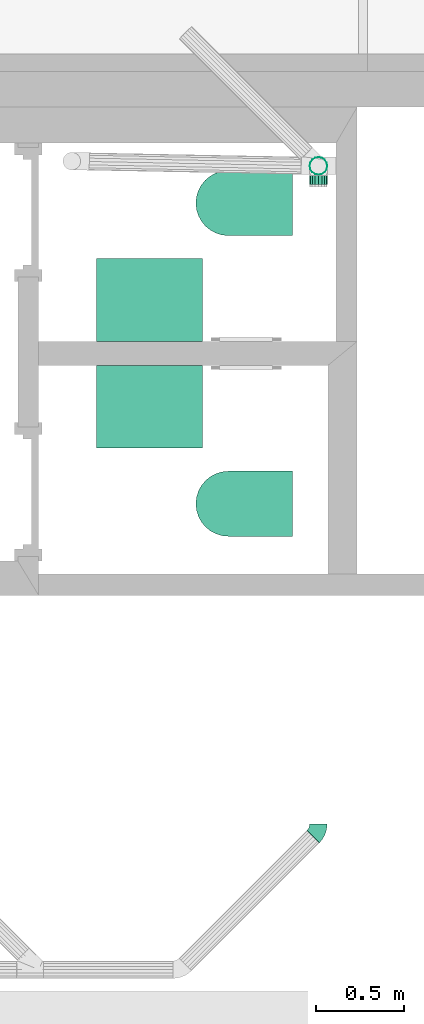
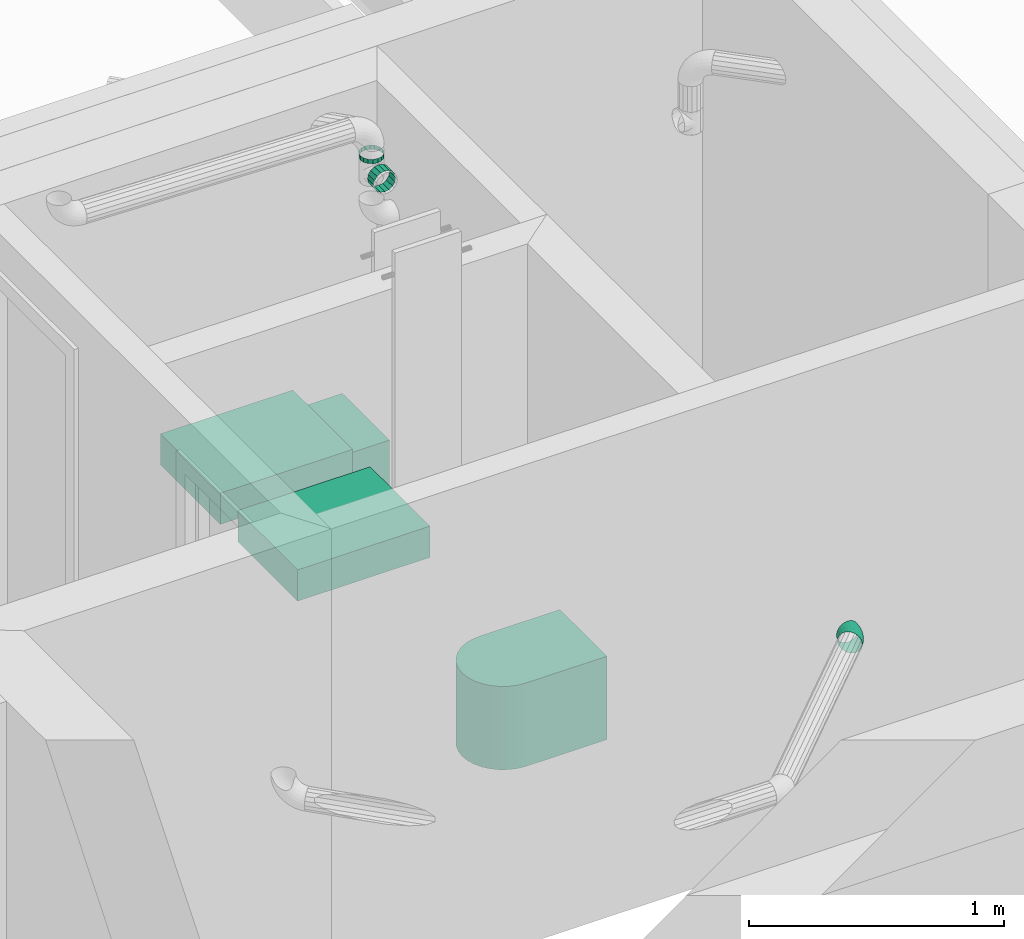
# One storey, part 16 of 22: 4 flow terminals, 2 flow segments, 1 flow fitting.
"""IFC2X3 building model written with IfcOpenShell, lengths in metres."""

from ifc_helpers import new_model, entity, si_unit, converted_unit, derived_unit, money_unit, direction, frame, origin_with_axes, place, context, subcontext, project, spatial, open_shell, faceted_brep, surface_model, material, type_object, element, save


model = new_model("IFC2X3")

# Units and contexts
model_context = context("Model", 3, precision=1e-05, world=origin_with_axes(), true_north=direction((0.0, 1.0)))
body_context = subcontext(model_context, "Body", "Model", "MODEL_VIEW", scale=1.0)
ifc_project = project(units=[si_unit("LENGTHUNIT", "METRE"), si_unit("AREAUNIT", "SQUARE_METRE"), si_unit("VOLUMEUNIT", "CUBIC_METRE"), si_unit("ABSORBEDDOSEUNIT", "GRAY"), si_unit("AMOUNTOFSUBSTANCEUNIT", "MOLE"), si_unit("DOSEEQUIVALENTUNIT", "SIEVERT"), si_unit("ELECTRICCAPACITANCEUNIT", "FARAD"), si_unit("ELECTRICCHARGEUNIT", "COULOMB"), si_unit("ELECTRICCONDUCTANCEUNIT", "SIEMENS"), si_unit("ELECTRICCURRENTUNIT", "AMPERE"), si_unit("ELECTRICRESISTANCEUNIT", "OHM"), si_unit("ELECTRICVOLTAGEUNIT", "VOLT"), si_unit("ENERGYUNIT", "JOULE"), si_unit("FORCEUNIT", "NEWTON"), si_unit("FREQUENCYUNIT", "HERTZ"), si_unit("ILLUMINANCEUNIT", "LUX"), si_unit("INDUCTANCEUNIT", "HENRY"), si_unit("LUMINOUSFLUXUNIT", "LUMEN"), si_unit("LUMINOUSINTENSITYUNIT", "CANDELA"), si_unit("MAGNETICFLUXDENSITYUNIT", "TESLA"), si_unit("MAGNETICFLUXUNIT", "WEBER"), si_unit("MASSUNIT", "GRAM"), converted_unit("PLANEANGLEUNIT", "degree", entity("IfcReal", 0.0174532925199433), si_unit("PLANEANGLEUNIT", "RADIAN"), dimensions=[0, 0, 0, 0, 0, 0, 0]), si_unit("POWERUNIT", "WATT"), si_unit("PRESSUREUNIT", "PASCAL"), si_unit("RADIOACTIVITYUNIT", "BECQUEREL"), si_unit("SOLIDANGLEUNIT", "STERADIAN"), si_unit("THERMODYNAMICTEMPERATUREUNIT", "KELVIN"), si_unit("TIMEUNIT", "SECOND"), derived_unit("ACCELERATIONUNIT", [(si_unit("LENGTHUNIT", "METRE"), 1), (si_unit("TIMEUNIT", "SECOND"), -2)]), derived_unit("ANGULARVELOCITYUNIT", [(converted_unit("PLANEANGLEUNIT", "degree", entity("IfcReal", 0.0174532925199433), si_unit("PLANEANGLEUNIT", "RADIAN"), dimensions=[0, 0, 0, 0, 0, 0, 0]), 1), (si_unit("TIMEUNIT", "SECOND"), -1)]), derived_unit("CURVATUREUNIT", [(converted_unit("PLANEANGLEUNIT", "degree", entity("IfcReal", 0.0174532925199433), si_unit("PLANEANGLEUNIT", "RADIAN"), dimensions=[0, 0, 0, 0, 0, 0, 0]), 1), (si_unit("LENGTHUNIT", "METRE"), -1)]), derived_unit("DYNAMICVISCOSITYUNIT", [(si_unit("PRESSUREUNIT", "PASCAL"), 1), (si_unit("TIMEUNIT", "SECOND"), 1)]), derived_unit("HEATFLUXDENSITYUNIT", [(si_unit("POWERUNIT", "WATT"), 1), (si_unit("LENGTHUNIT", "METRE"), -2)]), derived_unit("HEATINGVALUEUNIT", [(si_unit("ENERGYUNIT", "JOULE"), 1), (si_unit("MASSUNIT", "GRAM"), -1)]), derived_unit("INTEGERCOUNTRATEUNIT", [(si_unit("TIMEUNIT", "SECOND"), -1)]), derived_unit("IONCONCENTRATIONUNIT", [(si_unit("MASSUNIT", "GRAM"), 1), (si_unit("VOLUMEUNIT", "CUBIC_METRE"), -1)]), derived_unit("ISOTHERMALMOISTURECAPACITYUNIT", [(si_unit("VOLUMEUNIT", "CUBIC_METRE"), 1), (si_unit("MASSUNIT", "GRAM"), -1)]), derived_unit("KINEMATICVISCOSITYUNIT", [(si_unit("AREAUNIT", "SQUARE_METRE"), 1), (si_unit("TIMEUNIT", "SECOND"), -1)]), derived_unit("LINEARFORCEUNIT", [(si_unit("FORCEUNIT", "NEWTON"), 1), (si_unit("LENGTHUNIT", "METRE"), -1)]), derived_unit("LINEARMOMENTUNIT", [(si_unit("FORCEUNIT", "NEWTON"), 1), (si_unit("LENGTHUNIT", "METRE"), -1)]), derived_unit("LINEARSTIFFNESSUNIT", [(si_unit("FORCEUNIT", "NEWTON"), 1), (si_unit("LENGTHUNIT", "METRE"), -1)]), derived_unit("LINEARVELOCITYUNIT", [(si_unit("LENGTHUNIT", "METRE"), 1), (si_unit("TIMEUNIT", "SECOND"), -1)]), derived_unit("LUMINOUSINTENSITYDISTRIBUTIONUNIT", [(si_unit("LUMINOUSINTENSITYUNIT", "CANDELA"), 1), (si_unit("LUMINOUSFLUXUNIT", "LUMEN"), -1)]), derived_unit("MASSDENSITYUNIT", [(si_unit("MASSUNIT", "GRAM"), 1), (si_unit("VOLUMEUNIT", "CUBIC_METRE"), -1)]), derived_unit("MASSFLOWRATEUNIT", [(si_unit("MASSUNIT", "GRAM"), 1), (si_unit("TIMEUNIT", "SECOND"), -1)]), derived_unit("MASSPERLENGTHUNIT", [(si_unit("MASSUNIT", "GRAM"), 1), (si_unit("LENGTHUNIT", "METRE"), -1)]), derived_unit("MODULUSOFELASTICITYUNIT", [(si_unit("FORCEUNIT", "NEWTON"), 1), (si_unit("AREAUNIT", "SQUARE_METRE"), -1)]), derived_unit("MODULUSOFLINEARSUBGRADEREACTIONUNIT", [(si_unit("FORCEUNIT", "NEWTON"), 1), (si_unit("LENGTHUNIT", "METRE"), -2)]), derived_unit("MODULUSOFROTATIONALSUBGRADEREACTIONUNIT", [(si_unit("FORCEUNIT", "NEWTON"), 1), (si_unit("LENGTHUNIT", "METRE"), 1)]), derived_unit("MODULUSOFSUBGRADEREACTIONUNIT", [(si_unit("FORCEUNIT", "NEWTON"), 1), (si_unit("VOLUMEUNIT", "CUBIC_METRE"), -1)]), derived_unit("MOISTUREDIFFUSIVITYUNIT", [(si_unit("VOLUMEUNIT", "CUBIC_METRE"), 1), (si_unit("TIMEUNIT", "SECOND"), -1)]), derived_unit("MOLECULARWEIGHTUNIT", [(si_unit("MASSUNIT", "GRAM"), 1), (si_unit("AMOUNTOFSUBSTANCEUNIT", "MOLE"), -1)]), derived_unit("PLANARFORCEUNIT", [(si_unit("FORCEUNIT", "NEWTON"), 1), (si_unit("LENGTHUNIT", "METRE"), -2)]), derived_unit("ROTATIONALFREQUENCYUNIT", [(si_unit("TIMEUNIT", "SECOND"), -1)]), derived_unit("ROTATIONALMASSUNIT", [(si_unit("MASSUNIT", "GRAM"), 1), (si_unit("LENGTHUNIT", "METRE"), 2)]), derived_unit("ROTATIONALSTIFFNESSUNIT", [(si_unit("FORCEUNIT", "NEWTON"), 1), (si_unit("LENGTHUNIT", "METRE"), 1), (converted_unit("PLANEANGLEUNIT", "degree", entity("IfcReal", 0.0174532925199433), si_unit("PLANEANGLEUNIT", "RADIAN"), dimensions=[0, 0, 0, 0, 0, 0, 0]), -1)]), derived_unit("SECTIONAREAINTEGRALUNIT", [(si_unit("LENGTHUNIT", "METRE"), 5)]), derived_unit("SECTIONMODULUSUNIT", [(si_unit("LENGTHUNIT", "METRE"), 3)]), derived_unit("SHEARMODULUSUNIT", [(si_unit("FORCEUNIT", "NEWTON"), 1), (si_unit("AREAUNIT", "SQUARE_METRE"), -1)]), derived_unit("SOUNDPOWERUNIT", [(si_unit("ENERGYUNIT", "JOULE"), 1), (si_unit("TIMEUNIT", "SECOND"), -1)]), derived_unit("SPECIFICHEATCAPACITYUNIT", [(si_unit("FORCEUNIT", "NEWTON"), 1), (si_unit("MASSUNIT", "GRAM"), -1), (si_unit("THERMODYNAMICTEMPERATUREUNIT", "KELVIN"), -1)]), derived_unit("TEMPERATUREGRADIENTUNIT", [(si_unit("THERMODYNAMICTEMPERATUREUNIT", "KELVIN"), 1), (si_unit("LENGTHUNIT", "METRE"), -1)]), derived_unit("THERMALADMITTANCEUNIT", [(si_unit("POWERUNIT", "WATT"), 1), (si_unit("AREAUNIT", "SQUARE_METRE"), -1), (si_unit("THERMODYNAMICTEMPERATUREUNIT", "KELVIN"), -1)]), derived_unit("THERMALCONDUCTANCEUNIT", [(si_unit("POWERUNIT", "WATT"), 1), (si_unit("LENGTHUNIT", "METRE"), -1), (si_unit("THERMODYNAMICTEMPERATUREUNIT", "KELVIN"), -1)]), derived_unit("THERMALEXPANSIONCOEFFICIENTUNIT", [(si_unit("THERMODYNAMICTEMPERATUREUNIT", "KELVIN"), -1)]), derived_unit("THERMALRESISTANCEUNIT", [(si_unit("AREAUNIT", "SQUARE_METRE"), 1), (si_unit("POWERUNIT", "WATT"), -1)]), derived_unit("THERMALTRANSMITTANCEUNIT", [(si_unit("POWERUNIT", "WATT"), 1), (si_unit("AREAUNIT", "SQUARE_METRE"), -1), (si_unit("THERMODYNAMICTEMPERATUREUNIT", "KELVIN"), -1)]), derived_unit("TORQUEUNIT", [(si_unit("FORCEUNIT", "NEWTON"), 1), (si_unit("LENGTHUNIT", "METRE"), 1)]), derived_unit("VAPORPERMEABILITYUNIT", [(si_unit("MASSUNIT", "GRAM"), 1), (si_unit("TIMEUNIT", "SECOND"), -1)]), derived_unit("VOLUMETRICFLOWRATEUNIT", [(si_unit("VOLUMEUNIT", "CUBIC_METRE"), 1), (si_unit("TIMEUNIT", "SECOND"), -1)]), derived_unit("WARPINGCONSTANTUNIT", [(si_unit("LENGTHUNIT", "METRE"), 6)]), derived_unit("WARPINGMOMENTUNIT", [(si_unit("FORCEUNIT", "NEWTON"), 1), (si_unit("LENGTHUNIT", "METRE"), 2)]), money_unit("GBP")], contexts=[model_context])

# Site, building, storey, space
site_placement = place(None, origin_with_axes())
site = spatial("IfcSite", under=ifc_project, at=site_placement, Name="Site", CompositionType="ELEMENT")
building_placement = place(site_placement, origin_with_axes())
building = spatial("IfcBuilding", under=site, at=building_placement, Name="Building01", CompositionType="ELEMENT")
storey_placement = place(building_placement, frame((0.0, 0.0, 2.6), z_axis=(0.0, 0.0, 1.0), x_axis=(1.0, 0.0, 0.0)))
storey = spatial("IfcBuildingStorey", under=building, at=storey_placement, Name="MF", CompositionType="ELEMENT", Elevation=2.6)
space_1_placement = place(storey_placement, frame((15.816265, 6.196984, 0.0), z_axis=(0.0, 0.0, 1.0), x_axis=(1.0, 0.0, 0.0)))
space_1 = spatial("IfcSpace", under=storey, at=space_1_placement, Name="WC", CompositionType="ELEMENT", InteriorOrExteriorSpace="NOTDEFINED")

# Flow segments
ifc_material = material(Name="M_BSUK_ColdWater")
pipe_segment_type = type_object("IfcPipeSegmentType", Name="M-BmpStraightpipe-DefaultPipe", PredefinedType="RIGIDSEGMENT")
placement = place(building_placement, origin_with_axes())
flow_segment_1_placement = place(placement, frame((17.406946, 8.516912, 4.670054), z_axis=(1.0, 0.0, 0.0), x_axis=(0.0, 0.0, -1.0)))
element("IfcFlowSegment", 1, at=flow_segment_1_placement, inside=space_1, type_object=pipe_segment_type, material=ifc_material, Name="M-BmpStraightpipe-DefaultPipe", ObjectType="M-BmpStraightpipe-DefaultPipe", context=body_context, shape_type="Brep", body=[
    faceted_brep([(0.020788, 0.0, -0.05), (0.0, 0.0, -0.05), (0.0, 0.019134, -0.046194), (0.020788, 0.019134, -0.046194), (0.0, 0.035355, -0.035355), (0.020788, 0.035355, -0.035355), (0.0, 0.046194, -0.019134), (0.020788, 0.046194, -0.019134), (0.0, 0.05, 0.0), (0.020788, 0.05, 0.0), (0.0, 0.046194, 0.019134), (0.020788, 0.046194, 0.019134), (0.0, 0.035355, 0.035355), (0.020788, 0.035355, 0.035355), (0.0, 0.019134, 0.046194), (0.020788, 0.019134, 0.046194), (0.0, 0.0, 0.05), (0.020788, 0.0, 0.05), (0.0, -0.019134, 0.046194), (0.020788, -0.019134, 0.046194), (0.0, -0.035355, 0.035355), (0.020788, -0.035355, 0.035355), (0.0, -0.046194, 0.019134), (0.020788, -0.046194, 0.019134), (0.0, -0.05, 0.0), (0.020788, -0.05, 0.0), (0.0, -0.046194, -0.019134), (0.020788, -0.046194, -0.019134), (0.0, -0.035355, -0.035355), (0.020788, -0.035355, -0.035355), (0.0, -0.019134, -0.046194), (0.020788, -0.019134, -0.046194)], [[[0, 1, 2, 3]], [[3, 2, 4, 5]], [[5, 4, 6, 7]], [[7, 6, 8, 9]], [[9, 8, 10, 11]], [[11, 10, 12, 13]], [[13, 12, 14, 15]], [[15, 14, 16, 17]], [[17, 16, 18, 19]], [[19, 18, 20, 21]], [[21, 20, 22, 23]], [[23, 22, 24, 25]], [[25, 24, 26, 27]], [[27, 26, 28, 29]], [[29, 28, 30, 31]], [[31, 30, 1, 0]]]),
])
flow_segment_2_placement = place(placement, frame((17.406946, 8.461286, 4.594332), z_axis=(0.0, 0.0, 1.0), x_axis=(0.0, -1.0, 0.0)))
element("IfcFlowSegment", 2, at=flow_segment_2_placement, inside=space_1, type_object=pipe_segment_type, material=ifc_material, Name="M-BmpStraightpipe-DefaultPipe", ObjectType="M-BmpStraightpipe-DefaultPipe", context=body_context, shape_type="Brep", body=[
    faceted_brep([(0.05, 0.0, -0.05), (0.0, 0.0, -0.05), (0.0, 0.019134, -0.046194), (0.05, 0.019134, -0.046194), (0.0, 0.035355, -0.035355), (0.05, 0.035355, -0.035355), (0.0, 0.046194, -0.019134), (0.05, 0.046194, -0.019134), (0.0, 0.05, 0.0), (0.05, 0.05, 0.0), (0.0, 0.046194, 0.019134), (0.05, 0.046194, 0.019134), (0.0, 0.035355, 0.035355), (0.05, 0.035355, 0.035355), (0.0, 0.019134, 0.046194), (0.05, 0.019134, 0.046194), (0.0, 0.0, 0.05), (0.05, 0.0, 0.05), (0.0, -0.019134, 0.046194), (0.05, -0.019134, 0.046194), (0.0, -0.035355, 0.035355), (0.05, -0.035355, 0.035355), (0.0, -0.046194, 0.019134), (0.05, -0.046194, 0.019134), (0.0, -0.05, 0.0), (0.05, -0.05, 0.0), (0.0, -0.046194, -0.019134), (0.05, -0.046194, -0.019134), (0.0, -0.035355, -0.035355), (0.05, -0.035355, -0.035355), (0.0, -0.019134, -0.046194), (0.05, -0.019134, -0.046194)], [[[0, 1, 2, 3]], [[3, 2, 4, 5]], [[5, 4, 6, 7]], [[7, 6, 8, 9]], [[9, 8, 10, 11]], [[11, 10, 12, 13]], [[13, 12, 14, 15]], [[15, 14, 16, 17]], [[17, 16, 18, 19]], [[19, 18, 20, 21]], [[21, 20, 22, 23]], [[23, 22, 24, 25]], [[25, 24, 26, 27]], [[27, 26, 28, 29]], [[29, 28, 30, 31]], [[31, 30, 1, 0]]]),
])

# Space
space_2_placement = place(storey_placement, frame((14.421434, 6.076984, 0.0), z_axis=(0.0, 0.0, 1.0), x_axis=(0.0, -1.0, 0.0)))
space_2 = spatial("IfcSpace", under=storey, at=space_2_placement, Name="storage", CompositionType="ELEMENT", InteriorOrExteriorSpace="NOTDEFINED")

# Flow fitting
pipe_fitting_type = type_object("IfcPipeFittingType", Name="M-BmpElbow-DefaultElbow", PredefinedType="BEND")
flow_fitting_placement = place(placement, frame((17.376697, 4.704855, 4.641439), z_axis=(0.70714306, -0.70705155, 0.00517679), x_axis=(0.70705154, 0.70705154, -0.01249902)))
element("IfcFlowFitting", 3, at=flow_fitting_placement, inside=space_2, type_object=pipe_fitting_type, material=ifc_material, Name="M-BmpElbow-DefaultElbow", ObjectType="M-BmpElbow-DefaultElbow", context=body_context, shape_type="SurfaceModel", body=[
    surface_model("IfcShellBasedSurfaceModel", [(0.008111, -0.01349, -0.048784), (0.0, -0.01349, -0.048146), (0.0, 0.0, -0.05), (0.007821, 0.0, -0.050615), (0.016023, -0.01349, -0.050683), (0.01545, 0.0, -0.052447), (0.023539, -0.01349, -0.053797), (0.022698, 0.0, -0.055449), (0.030477, -0.01349, -0.058048), (0.029387, 0.0, -0.059548), (0.036664, -0.01349, -0.063331), (0.035353, 0.0, -0.064642), (0.00896, -0.025979, -0.043426), (0.0, -0.025979, -0.042721), (0.017699, -0.025979, -0.045524), (0.026002, -0.025979, -0.048963), (0.033665, -0.025979, -0.053659), (0.0405, -0.025979, -0.059495), (0.010304, -0.036542, -0.034939), (0.0, -0.036542, -0.034128), (0.020354, -0.036542, -0.037351), (0.029903, -0.036542, -0.041306), (0.038716, -0.036542, -0.046706), (0.046576, -0.036542, -0.053418), (0.012044, -0.044394, -0.023951), (0.0, -0.044394, -0.023003), (0.023791, -0.044394, -0.026771), (0.034953, -0.044394, -0.031394), (0.045254, -0.044394, -0.037706), (0.054441, -0.044394, -0.045552), (0.014051, -0.048954, -0.011279), (0.0, -0.048954, -0.010173), (0.027756, -0.048954, -0.014569), (0.040778, -0.048954, -0.019962), (0.052795, -0.048954, -0.027326), (0.063513, -0.048954, -0.036478), (0.016176, -0.049883, 0.002139), (0.0, -0.049883, 0.003412), (0.031954, -0.049883, -0.001648), (0.046945, -0.049883, -0.007857), (0.06078, -0.049883, -0.016335), (0.073119, -0.049883, -0.026872), (0.018261, -0.047113, 0.015307), (0.0, -0.047113, 0.016744), (0.036073, -0.047113, 0.011031), (0.052997, -0.047113, 0.004022), (0.068616, -0.047113, -0.005549), (0.082545, -0.047113, -0.017444), (0.020152, -0.040848, 0.027248), (0.0, -0.040848, 0.028834), (0.039809, -0.040848, 0.022529), (0.058485, -0.040848, 0.014794), (0.075721, -0.040848, 0.004233), (0.091094, -0.040848, -0.008895), (0.021709, -0.031554, 0.037077), (0.0, -0.031554, 0.038786), (0.042884, -0.031554, 0.031994), (0.063003, -0.031554, 0.023661), (0.08157, -0.031554, 0.012284), (0.09813, -0.031554, -0.001857), (0.022816, -0.01992, 0.044065), (0.0, -0.01992, 0.045861), (0.04507, -0.01992, 0.038723), (0.066214, -0.01992, 0.029965), (0.085729, -0.01992, 0.018008), (0.103132, -0.01992, 0.003146), (0.02339, -0.006808, 0.047694), (0.0, -0.006808, 0.049534), (0.046205, -0.006808, 0.042217), (0.067882, -0.006808, 0.033239), (0.087888, -0.006808, 0.02098), (0.10573, -0.006808, 0.005744), (0.02339, 0.006808, 0.047694), (0.0, 0.006808, 0.049534), (0.046205, 0.006808, 0.042217), (0.067882, 0.006808, 0.033239), (0.087888, 0.006808, 0.02098), (0.10573, 0.006808, 0.005744), (0.022816, 0.01992, 0.044065), (0.0, 0.01992, 0.045861), (0.04507, 0.01992, 0.038723), (0.066214, 0.01992, 0.029965), (0.085729, 0.01992, 0.018008), (0.103132, 0.01992, 0.003146), (0.021709, 0.031554, 0.037077), (0.0, 0.031554, 0.038786), (0.042884, 0.031554, 0.031994), (0.063003, 0.031554, 0.023661), (0.08157, 0.031554, 0.012284), (0.09813, 0.031554, -0.001857), (0.020152, 0.040848, 0.027248), (0.0, 0.040848, 0.028834), (0.039809, 0.040848, 0.022529), (0.058485, 0.040848, 0.014794), (0.075721, 0.040848, 0.004233), (0.091094, 0.040848, -0.008895), (0.018261, 0.047113, 0.015307), (0.0, 0.047113, 0.016744), (0.036073, 0.047113, 0.011031), (0.052997, 0.047113, 0.004022), (0.068616, 0.047113, -0.005549), (0.082545, 0.047113, -0.017444), (0.016176, 0.049883, 0.002139), (0.0, 0.049883, 0.003412), (0.031954, 0.049883, -0.001648), (0.046945, 0.049883, -0.007857), (0.06078, 0.049883, -0.016335), (0.073119, 0.049883, -0.026872), (0.014051, 0.048954, -0.011279), (0.0, 0.048954, -0.010173), (0.027756, 0.048954, -0.014569), (0.040778, 0.048954, -0.019962), (0.052795, 0.048954, -0.027326), (0.063513, 0.048954, -0.036478), (0.012044, 0.044394, -0.023951), (0.0, 0.044394, -0.023003), (0.023791, 0.044394, -0.026771), (0.034953, 0.044394, -0.031394), (0.045254, 0.044394, -0.037706), (0.054441, 0.044394, -0.045552), (0.010304, 0.036542, -0.034939), (0.0, 0.036542, -0.034128), (0.020354, 0.036542, -0.037351), (0.029903, 0.036542, -0.041306), (0.038716, 0.036542, -0.046706), (0.046576, 0.036542, -0.053418), (0.00896, 0.025979, -0.043426), (0.0, 0.025979, -0.042721), (0.017699, 0.025979, -0.045524), (0.026002, 0.025979, -0.048963), (0.033665, 0.025979, -0.053659), (0.0405, 0.025979, -0.059495), (0.008111, 0.01349, -0.048784), (0.0, 0.01349, -0.048146), (0.016023, 0.01349, -0.050683), (0.023539, 0.01349, -0.053797), (0.030477, 0.01349, -0.058048), (0.036664, 0.01349, -0.063331)], [open_shell([[[0, 1, 2, 3]], [[4, 0, 3, 5]], [[6, 4, 5, 7]], [[8, 6, 7, 9]], [[10, 8, 9, 11]], [[12, 13, 1, 0]], [[14, 12, 0, 4]], [[15, 14, 4, 6]], [[16, 15, 6, 8]], [[17, 16, 8, 10]], [[18, 19, 13, 12]], [[20, 18, 12, 14]], [[21, 20, 14, 15]], [[22, 21, 15, 16]], [[23, 22, 16, 17]], [[24, 25, 19, 18]], [[26, 24, 18, 20]], [[27, 26, 20, 21]], [[28, 27, 21, 22]], [[29, 28, 22, 23]], [[30, 31, 25, 24]], [[32, 30, 24, 26]], [[33, 32, 26, 27]], [[34, 33, 27, 28]], [[35, 34, 28, 29]], [[36, 37, 31, 30]], [[38, 36, 30, 32]], [[39, 38, 32, 33]], [[40, 39, 33, 34]], [[41, 40, 34, 35]], [[42, 43, 37, 36]], [[44, 42, 36, 38]], [[45, 44, 38, 39]], [[46, 45, 39, 40]], [[47, 46, 40, 41]], [[48, 49, 43, 42]], [[50, 48, 42, 44]], [[51, 50, 44, 45]], [[52, 51, 45, 46]], [[53, 52, 46, 47]], [[54, 55, 49, 48]], [[56, 54, 48, 50]], [[57, 56, 50, 51]], [[58, 57, 51, 52]], [[59, 58, 52, 53]], [[60, 61, 55, 54]], [[62, 60, 54, 56]], [[63, 62, 56, 57]], [[64, 63, 57, 58]], [[65, 64, 58, 59]], [[66, 67, 61, 60]], [[68, 66, 60, 62]], [[69, 68, 62, 63]], [[70, 69, 63, 64]], [[71, 70, 64, 65]], [[72, 73, 67, 66]], [[74, 72, 66, 68]], [[75, 74, 68, 69]], [[76, 75, 69, 70]], [[77, 76, 70, 71]], [[78, 79, 73, 72]], [[80, 78, 72, 74]], [[81, 80, 74, 75]], [[82, 81, 75, 76]], [[83, 82, 76, 77]], [[84, 85, 79, 78]], [[86, 84, 78, 80]], [[87, 86, 80, 81]], [[88, 87, 81, 82]], [[89, 88, 82, 83]], [[90, 91, 85, 84]], [[92, 90, 84, 86]], [[93, 92, 86, 87]], [[94, 93, 87, 88]], [[95, 94, 88, 89]], [[96, 97, 91, 90]], [[98, 96, 90, 92]], [[99, 98, 92, 93]], [[100, 99, 93, 94]], [[101, 100, 94, 95]], [[102, 103, 97, 96]], [[104, 102, 96, 98]], [[105, 104, 98, 99]], [[106, 105, 99, 100]], [[107, 106, 100, 101]], [[108, 109, 103, 102]], [[110, 108, 102, 104]], [[111, 110, 104, 105]], [[112, 111, 105, 106]], [[113, 112, 106, 107]], [[114, 115, 109, 108]], [[116, 114, 108, 110]], [[117, 116, 110, 111]], [[118, 117, 111, 112]], [[119, 118, 112, 113]], [[120, 121, 115, 114]], [[122, 120, 114, 116]], [[123, 122, 116, 117]], [[124, 123, 117, 118]], [[125, 124, 118, 119]], [[126, 127, 121, 120]], [[128, 126, 120, 122]], [[129, 128, 122, 123]], [[130, 129, 123, 124]], [[131, 130, 124, 125]], [[132, 133, 127, 126]], [[134, 132, 126, 128]], [[135, 134, 128, 129]], [[136, 135, 129, 130]], [[137, 136, 130, 131]], [[3, 2, 133, 132]], [[5, 3, 132, 134]], [[7, 5, 134, 135]], [[9, 7, 135, 136]], [[11, 9, 136, 137]]])]),
])

# Flow terminals
sanitary_terminal_type_1 = type_object("IfcSanitaryTerminalType", Name="SHE_A-Sink_47x60", PredefinedType="NOTDEFINED")
flow_terminal_1_placement = place(storey_placement, frame((16.446265, 7.147919, 1.405999), z_axis=(0.0, 0.0, 1.0), x_axis=(0.0, -1.0, 0.0)))
element("IfcFlowTerminal", 4, at=flow_terminal_1_placement, inside=space_1, type_object=sanitary_terminal_type_1, Name="00", ObjectType="SHE_A-Sink_47x60", context=body_context, shape_type="Brep", body=[
    faceted_brep([(-0.235, 0.3, -0.075), (-0.235, 0.3, 0.075), (0.235, 0.3, 0.075), (0.235, 0.3, -0.075), (0.235, -0.3, 0.075), (0.235, -0.3, -0.075), (-0.235, -0.3, 0.075), (-0.235, -0.3, -0.075)], [[[0, 1, 2, 3]], [[3, 2, 4, 5]], [[5, 4, 6, 7]], [[7, 6, 1, 0]], [[1, 6, 4, 2]], [[3, 5, 7, 0]]]),
])
flow_terminal_2_placement = place(storey_placement, frame((16.446265, 7.75492, 1.405999), z_axis=(0.0, 0.0, 1.0), x_axis=(0.0, -1.0, 0.0)))
element("IfcFlowTerminal", 5, at=flow_terminal_2_placement, inside=space_1, type_object=sanitary_terminal_type_1, Name="00", ObjectType="SHE_A-Sink_47x60", context=body_context, shape_type="Brep", body=[
    faceted_brep([(-0.235, 0.3, -0.075), (-0.235, 0.3, 0.075), (0.235, 0.3, 0.075), (0.235, 0.3, -0.075), (-0.235, -0.3, -0.075), (-0.235, -0.3, 0.075), (0.235, -0.3, -0.075), (0.235, -0.3, 0.075)], [[[0, 1, 2, 3]], [[4, 5, 1, 0]], [[6, 7, 5, 4]], [[3, 2, 7, 6]], [[1, 5, 7, 2]], [[3, 6, 4, 0]]]),
])
sanitary_terminal_type_2 = type_object("IfcSanitaryTerminalType", Name="SHE_A-Toilet_base", PredefinedType="NOTDEFINED")
flow_terminal_3_placement = place(storey_placement, frame((16.984942, 6.596976, 0.781), z_axis=(0.0, 0.0, 1.0), x_axis=(1.0, 0.0, 0.0)))
element("IfcFlowTerminal", 6, at=flow_terminal_3_placement, inside=space_1, type_object=sanitary_terminal_type_2, Name="00", ObjectType="SHE_A-Toilet_base", context=body_context, shape_type="Brep", body=[
    faceted_brep([(0.275003, 0.185008, -0.2), (0.275003, -0.185009, -0.2), (-0.089995, -0.185009, -0.2), (-0.126088, -0.181454, -0.2), (-0.160795, -0.170926, -0.2), (-0.19278, -0.153829, -0.2), (-0.220816, -0.130821, -0.2), (-0.243824, -0.102785, -0.2), (-0.26092, -0.0708, -0.2), (-0.271448, -0.036093, -0.2), (-0.275003, 0.0, -0.2), (-0.271448, 0.036093, -0.2), (-0.26092, 0.0708, -0.2), (-0.243824, 0.102785, -0.2), (-0.220816, 0.130821, -0.2), (-0.19278, 0.153829, -0.2), (-0.160795, 0.170926, -0.2), (-0.126088, 0.181454, -0.2), (-0.089995, 0.185008, -0.2), (-0.089995, 0.185008, 0.2), (-0.126088, 0.181454, 0.2), (-0.160795, 0.170926, 0.2), (-0.19278, 0.153829, 0.2), (-0.220816, 0.130821, 0.2), (-0.243824, 0.102785, 0.2), (-0.26092, 0.0708, 0.2), (-0.271448, 0.036093, 0.2), (-0.275003, 0.0, 0.2), (-0.271448, -0.036093, 0.2), (-0.26092, -0.0708, 0.2), (-0.243824, -0.102785, 0.2), (-0.220816, -0.130821, 0.2), (-0.19278, -0.153829, 0.2), (-0.160795, -0.170926, 0.2), (-0.126088, -0.181454, 0.2), (-0.089995, -0.185009, 0.2), (0.275003, -0.185009, 0.2), (0.275003, 0.185008, 0.2)], [[[0, 1, 2, 3, 4, 5, 6, 7, 8, 9, 10, 11, 12, 13, 14, 15, 16, 17, 18]], [[19, 20, 21, 22, 23, 24, 25, 26, 27, 28, 29, 30, 31, 32, 33, 34, 35, 36, 37]], [[2, 35, 34, 3]], [[3, 34, 33, 4]], [[4, 33, 32, 5]], [[5, 32, 31, 6]], [[6, 31, 30, 7]], [[7, 30, 29, 8]], [[8, 29, 28, 9]], [[9, 28, 27, 10]], [[10, 27, 26, 11]], [[11, 26, 25, 12]], [[12, 25, 24, 13]], [[13, 24, 23, 14]], [[14, 23, 22, 15]], [[15, 22, 21, 16]], [[16, 21, 20, 17]], [[17, 20, 19, 18]], [[1, 36, 35, 2]], [[0, 37, 36, 1]], [[18, 19, 37, 0]]]),
])
flow_terminal_4_placement = place(storey_placement, frame((16.984942, 8.305863, 0.781), z_axis=(0.0, 0.0, 1.0), x_axis=(-1.0, 0.0, 0.0)))
element("IfcFlowTerminal", 7, at=flow_terminal_4_placement, inside=space_1, type_object=sanitary_terminal_type_2, Name="00", ObjectType="SHE_A-Toilet_base", context=body_context, shape_type="Brep", body=[
    faceted_brep([(0.089995, 0.185008, -0.2), (0.126088, 0.181454, -0.2), (0.160795, 0.170926, -0.2), (0.19278, 0.153829, -0.2), (0.220816, 0.130821, -0.2), (0.243824, 0.102785, -0.2), (0.26092, 0.0708, -0.2), (0.271448, 0.036093, -0.2), (0.275003, 0.0, -0.2), (0.271448, -0.036093, -0.2), (0.26092, -0.0708, -0.2), (0.243824, -0.102785, -0.2), (0.220816, -0.130821, -0.2), (0.19278, -0.153829, -0.2), (0.160795, -0.170926, -0.2), (0.126088, -0.181454, -0.2), (0.089995, -0.185009, -0.2), (-0.275003, -0.185009, -0.2), (-0.275003, 0.185008, -0.2), (-0.275003, 0.185008, 0.2), (-0.275003, -0.185009, 0.2), (0.089995, -0.185009, 0.2), (0.126088, -0.181454, 0.2), (0.160795, -0.170926, 0.2), (0.19278, -0.153829, 0.2), (0.220816, -0.130821, 0.2), (0.243824, -0.102785, 0.2), (0.26092, -0.0708, 0.2), (0.271448, -0.036093, 0.2), (0.275003, 0.0, 0.2), (0.271448, 0.036093, 0.2), (0.26092, 0.0708, 0.2), (0.243824, 0.102785, 0.2), (0.220816, 0.130821, 0.2), (0.19278, 0.153829, 0.2), (0.160795, 0.170926, 0.2), (0.126088, 0.181454, 0.2), (0.089995, 0.185008, 0.2)], [[[0, 1, 2, 3, 4, 5, 6, 7, 8, 9, 10, 11, 12, 13, 14, 15, 16, 17, 18]], [[19, 20, 21, 22, 23, 24, 25, 26, 27, 28, 29, 30, 31, 32, 33, 34, 35, 36, 37]], [[15, 22, 21, 16]], [[14, 23, 22, 15]], [[13, 24, 23, 14]], [[12, 25, 24, 13]], [[11, 26, 25, 12]], [[10, 27, 26, 11]], [[9, 28, 27, 10]], [[8, 29, 28, 9]], [[7, 30, 29, 8]], [[6, 31, 30, 7]], [[5, 32, 31, 6]], [[4, 33, 32, 5]], [[3, 34, 33, 4]], [[2, 35, 34, 3]], [[1, 36, 35, 2]], [[0, 37, 36, 1]], [[16, 21, 20, 17]], [[17, 20, 19, 18]], [[18, 19, 37, 0]]]),
])

save(model, "model.ifc")
